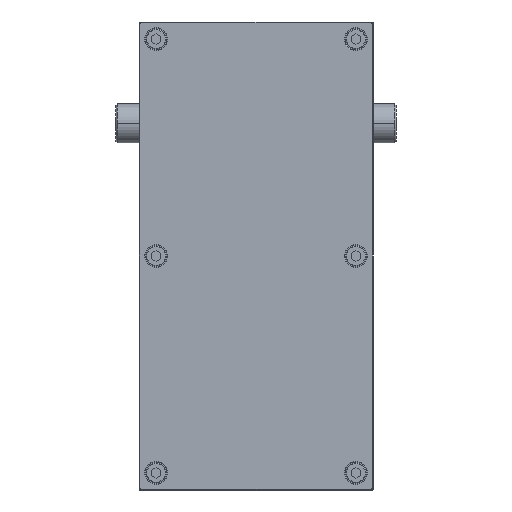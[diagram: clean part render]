
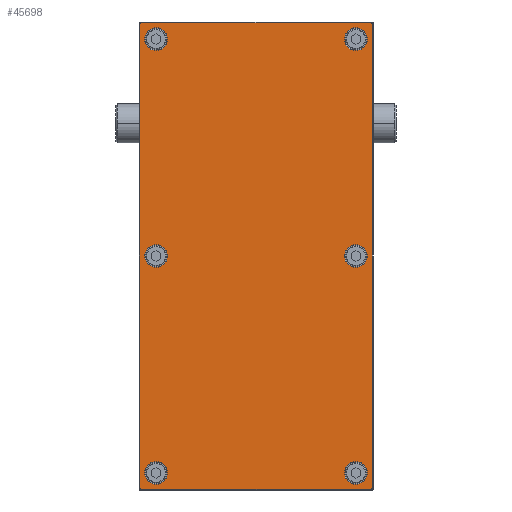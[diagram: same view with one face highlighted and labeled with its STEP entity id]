
A CAD part, front view. The second image highlights one B-rep face of the part: STEP entity #45698.
In plain terms, the highlighted planar face has unit normal (0, -1, 0).
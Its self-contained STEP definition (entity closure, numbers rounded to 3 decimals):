
#44257=CARTESIAN_POINT('',(149.,-9.,-74.));
#44258=DIRECTION('',(0.,-1.,0.));
#44259=DIRECTION('',(0.,0.,-1.));
#44260=AXIS2_PLACEMENT_3D('',#44257,#44258,#44259);
#44262=DIRECTION('',(1.,0.,0.));
#44263=VECTOR('',#44262,298.);
#44264=CARTESIAN_POINT('',(-149.,-9.,
-74.5));
#44265=LINE('',#44264,#44263);
#44266=CARTESIAN_POINT('',(-149.,-9.,-74.));
#44267=DIRECTION('',(0.,-1.,0.));
#44268=DIRECTION('',(-1.,0.,0.));
#44269=AXIS2_PLACEMENT_3D('',#44266,#44267,#44268);
#44271=DIRECTION('',(0.,0.,-1.));
#44272=VECTOR('',#44271,148.);
#44273=CARTESIAN_POINT('',(-149.5,-9.,74.));
#44274=LINE('',#44273,#44272);
#44275=CARTESIAN_POINT('',(-149.,-9.,74.));
#44276=DIRECTION('',(0.,-1.,0.));
#44277=DIRECTION('',(0.,0.,1.));
#44278=AXIS2_PLACEMENT_3D('',#44275,#44276,#44277);
#44280=DIRECTION('',(-1.,0.,0.));
#44281=VECTOR('',#44280,298.);
#44282=CARTESIAN_POINT('',(149.,-9.,
74.5));
#44283=LINE('',#44282,#44281);
#44284=CARTESIAN_POINT('',(149.,-9.,74.));
#44285=DIRECTION('',(0.,-1.,0.));
#44286=DIRECTION('',(1.,0.,0.));
#44287=AXIS2_PLACEMENT_3D('',#44284,#44285,#44286);
#44289=DIRECTION('',(0.,0.,1.));
#44290=VECTOR('',#44289,148.);
#44291=CARTESIAN_POINT('',(149.5,-9.,-74.));
#44292=LINE('',#44291,#44290);
#44293=CARTESIAN_POINT('',(-139.,-9.,-64.));
#44294=DIRECTION('',(0.,1.,0.));
#44295=DIRECTION('',(1.,0.,0.));
#44296=AXIS2_PLACEMENT_3D('',#44293,#44294,#44295);
#44298=CARTESIAN_POINT('',(-139.,-9.,-64.));
#44299=DIRECTION('',(0.,1.,0.));
#44300=DIRECTION('',(-1.,0.,0.));
#44301=AXIS2_PLACEMENT_3D('',#44298,#44299,#44300);
#44303=CARTESIAN_POINT('',(0.,-9.,-64.));
#44304=DIRECTION('',(0.,1.,0.));
#44305=DIRECTION('',(1.,0.,0.));
#44306=AXIS2_PLACEMENT_3D('',#44303,#44304,#44305);
#44308=CARTESIAN_POINT('',(0.,-9.,-64.));
#44309=DIRECTION('',(0.,1.,0.));
#44310=DIRECTION('',(-1.,0.,0.));
#44311=AXIS2_PLACEMENT_3D('',#44308,#44309,#44310);
#44313=CARTESIAN_POINT('',(139.,-9.,-64.));
#44314=DIRECTION('',(0.,1.,0.));
#44315=DIRECTION('',(1.,0.,0.));
#44316=AXIS2_PLACEMENT_3D('',#44313,#44314,#44315);
#44318=CARTESIAN_POINT('',(139.,-9.,-64.));
#44319=DIRECTION('',(0.,1.,0.));
#44320=DIRECTION('',(-1.,0.,0.));
#44321=AXIS2_PLACEMENT_3D('',#44318,#44319,#44320);
#44323=CARTESIAN_POINT('',(139.,-9.,64.));
#44324=DIRECTION('',(0.,1.,0.));
#44325=DIRECTION('',(1.,0.,0.));
#44326=AXIS2_PLACEMENT_3D('',#44323,#44324,#44325);
#44328=CARTESIAN_POINT('',(139.,-9.,64.));
#44329=DIRECTION('',(0.,1.,0.));
#44330=DIRECTION('',(-1.,0.,0.));
#44331=AXIS2_PLACEMENT_3D('',#44328,#44329,#44330);
#44333=CARTESIAN_POINT('',(0.,-9.,64.));
#44334=DIRECTION('',(0.,1.,0.));
#44335=DIRECTION('',(1.,0.,0.));
#44336=AXIS2_PLACEMENT_3D('',#44333,#44334,#44335);
#44338=CARTESIAN_POINT('',(0.,-9.,64.));
#44339=DIRECTION('',(0.,1.,0.));
#44340=DIRECTION('',(-1.,0.,0.));
#44341=AXIS2_PLACEMENT_3D('',#44338,#44339,#44340);
#44343=CARTESIAN_POINT('',(-139.,-9.,64.));
#44344=DIRECTION('',(0.,1.,0.));
#44345=DIRECTION('',(1.,0.,0.));
#44346=AXIS2_PLACEMENT_3D('',#44343,#44344,#44345);
#44348=CARTESIAN_POINT('',(-139.,-9.,64.));
#44349=DIRECTION('',(0.,1.,0.));
#44350=DIRECTION('',(-1.,0.,0.));
#44351=AXIS2_PLACEMENT_3D('',#44348,#44349,#44350);
#45427=CARTESIAN_POINT('',(149.,-9.,-74.5));
#45428=CARTESIAN_POINT('',(149.5,-9.,-74.));
#45429=VERTEX_POINT('',#45427);
#45430=VERTEX_POINT('',#45428);
#45435=CARTESIAN_POINT('',(149.5,-9.,
74.));
#45436=VERTEX_POINT('',#45435);
#45439=CARTESIAN_POINT('',(149.,-9.,74.5));
#45440=VERTEX_POINT('',#45439);
#45443=CARTESIAN_POINT('',(-149.,-9.,
74.5));
#45444=VERTEX_POINT('',#45443);
#45447=CARTESIAN_POINT('',(-149.5,-9.,74.));
#45448=VERTEX_POINT('',#45447);
#45451=CARTESIAN_POINT('',(-149.5,-9.,
-74.));
#45452=VERTEX_POINT('',#45451);
#45455=CARTESIAN_POINT('',(-149.,-9.,-74.5));
#45456=VERTEX_POINT('',#45455);
#45483=CARTESIAN_POINT('',(-131.7,-9.,-64.));
#45484=CARTESIAN_POINT('',(-146.3,-9.,-64.));
#45485=VERTEX_POINT('',#45483);
#45486=VERTEX_POINT('',#45484);
#45499=CARTESIAN_POINT('',(7.3,-9.,-64.));
#45500=CARTESIAN_POINT('',(-7.3,-9.,-64.));
#45501=VERTEX_POINT('',#45499);
#45502=VERTEX_POINT('',#45500);
#45523=CARTESIAN_POINT('',(146.3,-9.,-64.));
#45524=CARTESIAN_POINT('',(131.7,-9.,-64.));
#45525=VERTEX_POINT('',#45523);
#45526=VERTEX_POINT('',#45524);
#45539=CARTESIAN_POINT('',(146.3,-9.,64.));
#45540=CARTESIAN_POINT('',(131.7,-9.,64.));
#45541=VERTEX_POINT('',#45539);
#45542=VERTEX_POINT('',#45540);
#45547=CARTESIAN_POINT('',(7.3,-9.,64.));
#45548=CARTESIAN_POINT('',(-7.3,-9.,64.));
#45549=VERTEX_POINT('',#45547);
#45550=VERTEX_POINT('',#45548);
#45571=CARTESIAN_POINT('',(-131.7,-9.,64.));
#45572=CARTESIAN_POINT('',(-146.3,-9.,64.));
#45573=VERTEX_POINT('',#45571);
#45574=VERTEX_POINT('',#45572);
#45639=CARTESIAN_POINT('',(0.,-9.,0.));
#45640=DIRECTION('',(0.,1.,0.));
#45641=DIRECTION('',(1.,0.,0.));
#45642=AXIS2_PLACEMENT_3D('',#45639,#45640,#45641);
#45643=PLANE('',#45642);
#45645=ORIENTED_EDGE('',*,*,#45644,.F.);
#45647=ORIENTED_EDGE('',*,*,#45646,.F.);
#45649=ORIENTED_EDGE('',*,*,#45648,.F.);
#45651=ORIENTED_EDGE('',*,*,#45650,.F.);
#45653=ORIENTED_EDGE('',*,*,#45652,.F.);
#45655=ORIENTED_EDGE('',*,*,#45654,.F.);
#45657=ORIENTED_EDGE('',*,*,#45656,.F.);
#45659=ORIENTED_EDGE('',*,*,#45658,.F.);
#45660=EDGE_LOOP('',(#45645,#45647,#45649,#45651,#45653,#45655,#45657,#45659));
#45661=FACE_OUTER_BOUND('',#45660,.F.);
#45663=ORIENTED_EDGE('',*,*,#45662,.F.);
#45665=ORIENTED_EDGE('',*,*,#45664,.F.);
#45666=EDGE_LOOP('',(#45663,#45665));
#45667=FACE_BOUND('',#45666,.F.);
#45669=ORIENTED_EDGE('',*,*,#45668,.F.);
#45671=ORIENTED_EDGE('',*,*,#45670,.F.);
#45672=EDGE_LOOP('',(#45669,#45671));
#45673=FACE_BOUND('',#45672,.F.);
#45675=ORIENTED_EDGE('',*,*,#45674,.F.);
#45677=ORIENTED_EDGE('',*,*,#45676,.F.);
#45678=EDGE_LOOP('',(#45675,#45677));
#45679=FACE_BOUND('',#45678,.F.);
#45681=ORIENTED_EDGE('',*,*,#45680,.F.);
#45683=ORIENTED_EDGE('',*,*,#45682,.F.);
#45684=EDGE_LOOP('',(#45681,#45683));
#45685=FACE_BOUND('',#45684,.F.);
#45687=ORIENTED_EDGE('',*,*,#45686,.F.);
#45689=ORIENTED_EDGE('',*,*,#45688,.F.);
#45690=EDGE_LOOP('',(#45687,#45689));
#45691=FACE_BOUND('',#45690,.F.);
#45693=ORIENTED_EDGE('',*,*,#45692,.F.);
#45695=ORIENTED_EDGE('',*,*,#45694,.F.);
#45696=EDGE_LOOP('',(#45693,#45695));
#45697=FACE_BOUND('',#45696,.F.);
#45698=ADVANCED_FACE('',(#45661,#45667,#45673,#45679,#45685,#45691,#45697),
#45643,.F.);
#44261=CIRCLE('',#44260,0.5);
#44270=CIRCLE('',#44269,0.5);
#44279=CIRCLE('',#44278,0.5);
#44288=CIRCLE('',#44287,0.5);
#44297=CIRCLE('',#44296,7.3);
#44302=CIRCLE('',#44301,7.3);
#44307=CIRCLE('',#44306,7.3);
#44312=CIRCLE('',#44311,7.3);
#44317=CIRCLE('',#44316,7.3);
#44322=CIRCLE('',#44321,7.3);
#44327=CIRCLE('',#44326,7.3);
#44332=CIRCLE('',#44331,7.3);
#44337=CIRCLE('',#44336,7.3);
#44342=CIRCLE('',#44341,7.3);
#44347=CIRCLE('',#44346,7.3);
#44352=CIRCLE('',#44351,7.3);
#45644=EDGE_CURVE('',#45429,#45430,#44261,.T.);
#45646=EDGE_CURVE('',#45456,#45429,#44265,.T.);
#45648=EDGE_CURVE('',#45452,#45456,#44270,.T.);
#45650=EDGE_CURVE('',#45448,#45452,#44274,.T.);
#45652=EDGE_CURVE('',#45444,#45448,#44279,.T.);
#45654=EDGE_CURVE('',#45440,#45444,#44283,.T.);
#45656=EDGE_CURVE('',#45436,#45440,#44288,.T.);
#45658=EDGE_CURVE('',#45430,#45436,#44292,.T.);
#45662=EDGE_CURVE('',#45485,#45486,#44297,.T.);
#45664=EDGE_CURVE('',#45486,#45485,#44302,.T.);
#45668=EDGE_CURVE('',#45501,#45502,#44307,.T.);
#45670=EDGE_CURVE('',#45502,#45501,#44312,.T.);
#45674=EDGE_CURVE('',#45525,#45526,#44317,.T.);
#45676=EDGE_CURVE('',#45526,#45525,#44322,.T.);
#45680=EDGE_CURVE('',#45541,#45542,#44327,.T.);
#45682=EDGE_CURVE('',#45542,#45541,#44332,.T.);
#45686=EDGE_CURVE('',#45549,#45550,#44337,.T.);
#45688=EDGE_CURVE('',#45550,#45549,#44342,.T.);
#45692=EDGE_CURVE('',#45573,#45574,#44347,.T.);
#45694=EDGE_CURVE('',#45574,#45573,#44352,.T.);
